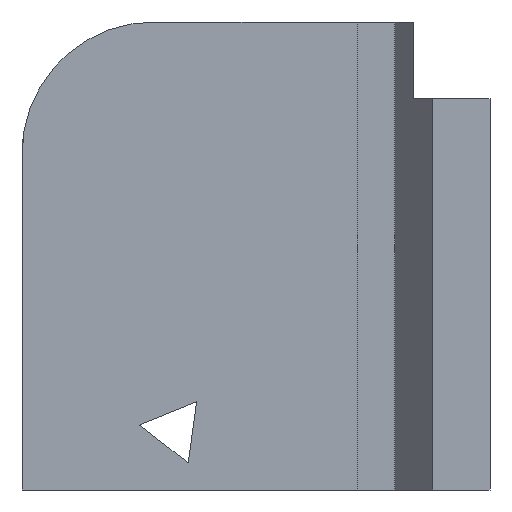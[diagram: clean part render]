
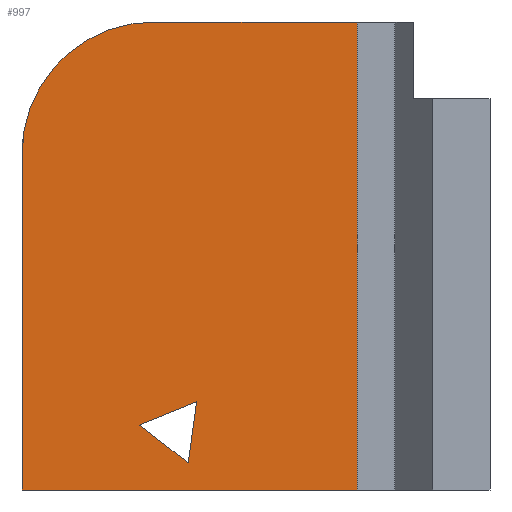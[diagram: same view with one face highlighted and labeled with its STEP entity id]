
A CAD part, left-side view. The second image highlights one B-rep face of the part: STEP entity #997.
In plain terms, the highlighted planar face has unit normal (-1, 0, 0).
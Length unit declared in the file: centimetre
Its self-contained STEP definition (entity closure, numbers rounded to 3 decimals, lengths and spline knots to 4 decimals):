
#3 = AXIS2_PLACEMENT_3D ( 'NONE', #115, #953, #261 ) ;
#7 = EDGE_LOOP ( 'NONE', ( #770, #347, #341, #85, #80 ) ) ;
#20 = CARTESIAN_POINT ( 'NONE',  ( 0., 1000., 1000. ) ) ;
#66 = ORIENTED_EDGE ( 'NONE', *, *, #105, .F. ) ;
#75 = CIRCLE ( 'NONE', #3, 281.6538 ) ;
#80 = ORIENTED_EDGE ( 'NONE', *, *, #373, .T. ) ;
#85 = ORIENTED_EDGE ( 'NONE', *, *, #486, .T. ) ;
#105 = EDGE_CURVE ( 'NONE', #419, #812, #859, .T. ) ;
#108 = CARTESIAN_POINT ( 'NONE',  ( 0., 749.0408, 138.8699 ) ) ;
#115 = CARTESIAN_POINT ( 'NONE',  ( 0., 718.3462, 718.3462 ) ) ;
#132 = CARTESIAN_POINT ( 'NONE',  ( 0., 626.738, 188.6969 ) ) ;
#141 = LINE ( 'NONE', #898, #412 ) ;
#183 = CARTESIAN_POINT ( 'NONE',  ( 0., 1000., 0. ) ) ;
#187 = VECTOR ( 'NONE', #360, 100. ) ;
#212 = ORIENTED_EDGE ( 'NONE', *, *, #461, .F. ) ;
#221 = VERTEX_POINT ( 'NONE', #183 ) ;
#227 = DIRECTION ( 'NONE',  ( 0., 0., -1. ) ) ;
#246 = EDGE_CURVE ( 'NONE', #248, #349, #493, .T. ) ;
#248 = VERTEX_POINT ( 'NONE', #796 ) ;
#261 = DIRECTION ( 'NONE',  ( 0., 0., -1. ) ) ;
#264 = AXIS2_PLACEMENT_3D ( 'NONE', #20, #581, #879 ) ;
#270 = VERTEX_POINT ( 'NONE', #660 ) ;
#273 = DIRECTION ( 'NONE',  ( 0., -0.79, -0.613 ) ) ;
#274 = PLANE ( 'NONE',  #264 ) ;
#296 = DIRECTION ( 'NONE',  ( 0., 0.926, -0.377 ) ) ;
#313 = EDGE_CURVE ( 'NONE', #938, #419, #895, .T. ) ;
#319 = CARTESIAN_POINT ( 'NONE',  ( 0., 644.738, 57.866 ) ) ;
#341 = ORIENTED_EDGE ( 'NONE', *, *, #246, .F. ) ;
#347 = ORIENTED_EDGE ( 'NONE', *, *, #828, .F. ) ;
#349 = VERTEX_POINT ( 'NONE', #974 ) ;
#360 = DIRECTION ( 'NONE',  ( 0., 0., -1. ) ) ;
#373 = EDGE_CURVE ( 'NONE', #270, #221, #514, .T. ) ;
#412 = VECTOR ( 'NONE', #819, 100. ) ;
#419 = VERTEX_POINT ( 'NONE', #768 ) ;
#433 = VECTOR ( 'NONE', #296, 100. ) ;
#461 = EDGE_CURVE ( 'NONE', #812, #938, #502, .T. ) ;
#486 = EDGE_CURVE ( 'NONE', #248, #270, #75, .T. ) ;
#493 = LINE ( 'NONE', #590, #673 ) ;
#500 = FACE_BOUND ( 'NONE', #681, .T. ) ;
#502 = LINE ( 'NONE', #965, #843 ) ;
#512 = CARTESIAN_POINT ( 'NONE',  ( 0., 283.666, 0. ) ) ;
#514 = LINE ( 'NONE', #905, #187 ) ;
#569 = CARTESIAN_POINT ( 'NONE',  ( 0., 626.738, 188.6969 ) ) ;
#581 = DIRECTION ( 'NONE',  ( 1., 0., 0. ) ) ;
#590 = CARTESIAN_POINT ( 'NONE',  ( 0., 1000., 1000. ) ) ;
#593 = EDGE_CURVE ( 'NONE', #221, #639, #141, .T. ) ;
#626 = DIRECTION ( 'NONE',  ( 0., -0.136, 0.991 ) ) ;
#639 = VERTEX_POINT ( 'NONE', #512 ) ;
#660 = CARTESIAN_POINT ( 'NONE',  ( 0., 1000., 718.3462 ) ) ;
#673 = VECTOR ( 'NONE', #721, 100. ) ;
#680 = VECTOR ( 'NONE', #273, 100. ) ;
#681 = EDGE_LOOP ( 'NONE', ( #212, #66, #707 ) ) ;
#707 = ORIENTED_EDGE ( 'NONE', *, *, #313, .F. ) ;
#721 = DIRECTION ( 'NONE',  ( 0., -1., 0. ) ) ;
#752 = LINE ( 'NONE', #994, #918 ) ;
#768 = CARTESIAN_POINT ( 'NONE',  ( 0., 749.0408, 138.8699 ) ) ;
#770 = ORIENTED_EDGE ( 'NONE', *, *, #593, .T. ) ;
#796 = CARTESIAN_POINT ( 'NONE',  ( 0., 718.3462, 1000. ) ) ;
#812 = VERTEX_POINT ( 'NONE', #319 ) ;
#819 = DIRECTION ( 'NONE',  ( 0., -1., 0. ) ) ;
#828 = EDGE_CURVE ( 'NONE', #349, #639, #752, .T. ) ;
#843 = VECTOR ( 'NONE', #626, 100. ) ;
#859 = LINE ( 'NONE', #108, #680 ) ;
#879 = DIRECTION ( 'NONE',  ( 0., 0., -1. ) ) ;
#895 = LINE ( 'NONE', #132, #433 ) ;
#898 = CARTESIAN_POINT ( 'NONE',  ( 0., 1000., 0. ) ) ;
#905 = CARTESIAN_POINT ( 'NONE',  ( 0., 1000., 1000. ) ) ;
#918 = VECTOR ( 'NONE', #227, 100. ) ;
#938 = VERTEX_POINT ( 'NONE', #569 ) ;
#953 = DIRECTION ( 'NONE',  ( -1., 0., 0. ) ) ;
#964 = FACE_OUTER_BOUND ( 'NONE', #7, .T. ) ;
#965 = CARTESIAN_POINT ( 'NONE',  ( 0., 644.738, 57.866 ) ) ;
#974 = CARTESIAN_POINT ( 'NONE',  ( 0., 283.666, 1000. ) ) ;
#994 = CARTESIAN_POINT ( 'NONE',  ( 0., 283.666, 1000. ) ) ;
#997 = ADVANCED_FACE ( 'NONE', ( #500, #964 ), #274, .F. ) ;
